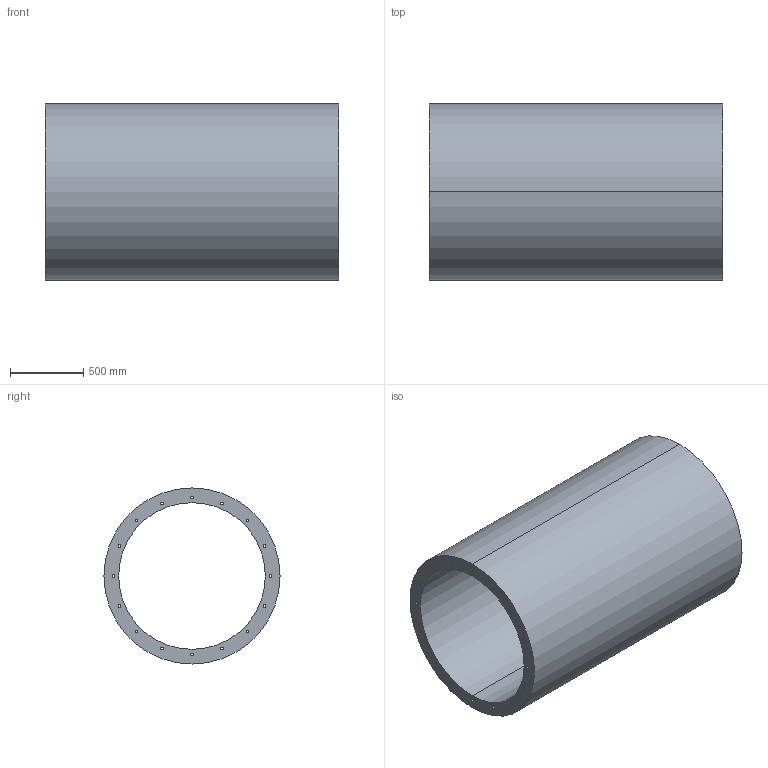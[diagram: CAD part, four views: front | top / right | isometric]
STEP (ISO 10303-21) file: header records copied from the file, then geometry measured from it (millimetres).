
FILE_DESCRIPTION(('STEP AP214'),'1');
FILE_NAME('accessory_5211812800.stp','2017-10-09T11:36:52',('TraceParts'),('TraceParts S.A.'),'Spatial InterOp 3D',' ',' ');
FILE_SCHEMA(('automotive_design'));
Length unit declared in the file: millimetre
Products named in the file (1): accessory_5211812800
Bounding box: 2000 x 1200 x 1200 mm (x, y, z)
Volume: 681097287.3 mm3; surface area: 16514724.3 mm2
Topology: 1 solids, 1 shells, 38 faces, 108 edges, 72 vertices
Faces by surface type: cylinder 36, plane 2
Entity records: 1672 total; most frequent: DIRECTION 258, CARTESIAN_POINT 219, ORIENTED_EDGE 216, AXIS2_PLACEMENT_3D 111, EDGE_CURVE 108, EDGE_LOOP 72, VERTEX_POINT 72, CIRCLE 72
